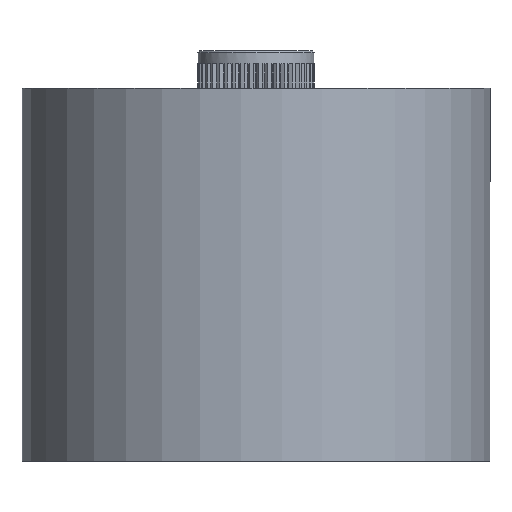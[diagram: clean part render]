
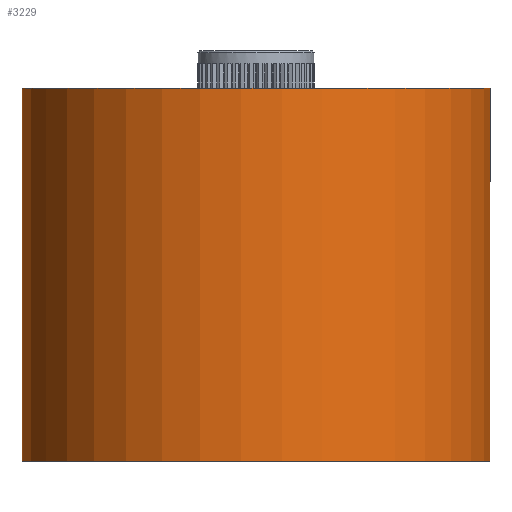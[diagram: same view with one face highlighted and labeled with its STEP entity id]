
A CAD part, front view. The second image highlights one B-rep face of the part: STEP entity #3229.
In plain terms, the highlighted cylindrical face has radius 16 mm (diameter 32 mm), a full revolution.
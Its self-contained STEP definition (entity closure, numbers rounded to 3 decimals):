
#2368=CARTESIAN_POINT('',(8.884,13.307,18.856));
#2369=VERTEX_POINT('',#2368);
#2370=CARTESIAN_POINT('',(0.,0.,18.856));
#2371=DIRECTION('',(0.0,0.0,-1.0));
#2372=DIRECTION('',(-0.555,-0.832,0.0));
#2373=AXIS2_PLACEMENT_3D('',#2370,#2371,#2372);
#2374=CIRCLE('',#2373,16.0);
#2375=EDGE_CURVE('',#2369,#2369,#2374,.F.);
#3210=CARTESIAN_POINT('',(0.,0.,-6.604));
#3211=DIRECTION('',(0.0,0.0,1.0));
#3212=DIRECTION('',(-0.555,-0.832,0.0));
#3213=AXIS2_PLACEMENT_3D('',#3210,#3211,#3212);
#3214=CYLINDRICAL_SURFACE('',#3213,16.0);
#3215=ORIENTED_EDGE('',*,*,#2375,.F.);
#3216=EDGE_LOOP('',(#3215));
#3217=FACE_OUTER_BOUND('',#3216,.T.);
#3218=CARTESIAN_POINT('',(8.884,13.307,-6.604));
#3219=VERTEX_POINT('',#3218);
#3220=CARTESIAN_POINT('',(0.,0.,-6.604));
#3221=DIRECTION('',(0.0,0.0,1.0));
#3222=DIRECTION('',(-0.555,-0.832,0.0));
#3223=AXIS2_PLACEMENT_3D('',#3220,#3221,#3222);
#3224=CIRCLE('',#3223,16.0);
#3225=EDGE_CURVE('',#3219,#3219,#3224,.F.);
#3226=ORIENTED_EDGE('',*,*,#3225,.F.);
#3227=EDGE_LOOP('',(#3226));
#3228=FACE_BOUND('',#3227,.T.);
#3229=ADVANCED_FACE('',(#3217,#3228),#3214,.T.);
